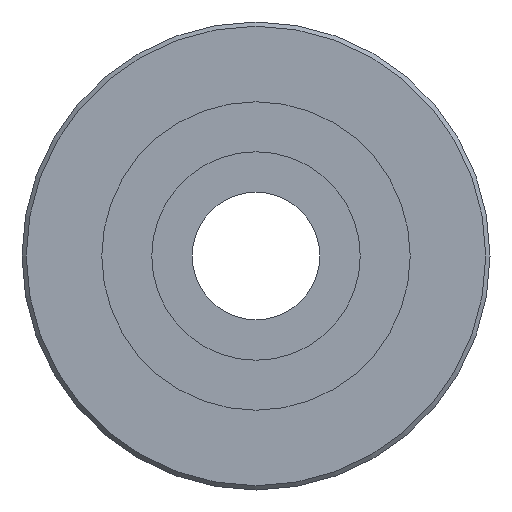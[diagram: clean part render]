
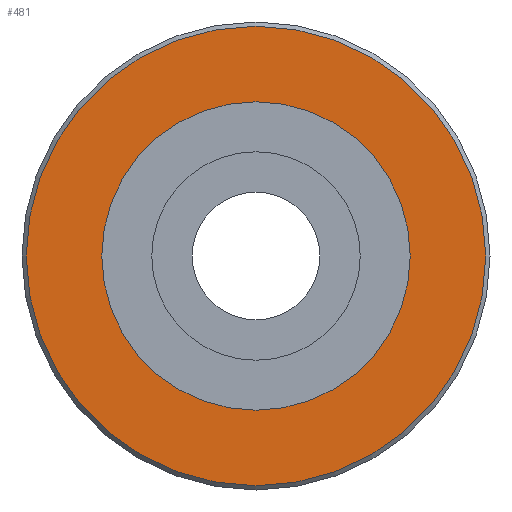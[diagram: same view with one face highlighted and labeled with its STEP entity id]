
A CAD part, left-side view. The second image highlights one B-rep face of the part: STEP entity #481.
In plain terms, the highlighted planar face has unit normal (-1, 0, 0).
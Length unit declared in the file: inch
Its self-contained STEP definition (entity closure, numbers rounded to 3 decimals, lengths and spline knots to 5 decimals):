
#454=CARTESIAN_POINT('',(10.75,35.3,0.));
#455=VERTEX_POINT('',#454);
#456=CARTESIAN_POINT('',(10.75,24.5,0.));
#457=DIRECTION('',(-1.,0.,0.));
#458=DIRECTION('',(0.,1.,0.));
#459=AXIS2_PLACEMENT_3D('',#456,#457,#458);
#460=CIRCLE('',#459,10.8);
#461=EDGE_CURVE('',#455,#455,#460,.T.);
#462=ORIENTED_EDGE('',*,*,#461,.T.);
#463=EDGE_LOOP('',(#462));
#464=FACE_OUTER_BOUND('',#463,.T.);
#465=CARTESIAN_POINT('',(10.75,31.75,0.));
#466=VERTEX_POINT('',#465);
#467=CARTESIAN_POINT('',(10.75,24.5,0.));
#468=DIRECTION('',(-1.,0.,0.));
#469=DIRECTION('',(0.,1.,0.));
#470=AXIS2_PLACEMENT_3D('',#467,#468,#469);
#471=CIRCLE('',#470,7.25);
#472=EDGE_CURVE('',#466,#466,#471,.T.);
#473=ORIENTED_EDGE('',*,*,#472,.F.);
#474=EDGE_LOOP('',(#473));
#475=FACE_BOUND('',#474,.T.);
#476=CARTESIAN_POINT('',(10.75,33.525,0.));
#477=DIRECTION('',(-1.,0.,0.));
#478=DIRECTION('',(0.,1.,0.));
#479=AXIS2_PLACEMENT_3D('',#476,#477,#478);
#480=PLANE('',#479);
#481=ADVANCED_FACE('',(#464,#475),#480,.T.);
